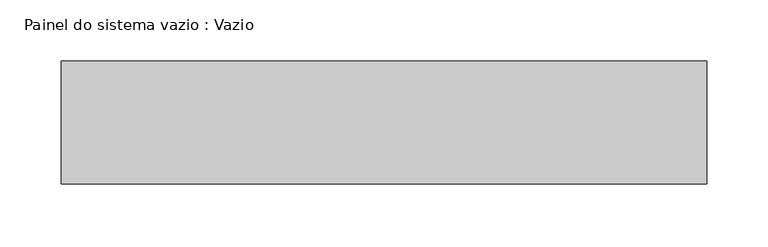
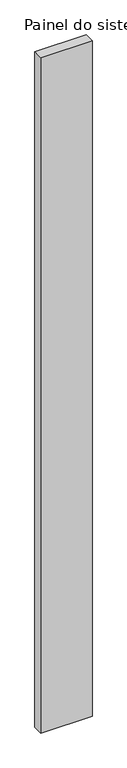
"""IFC4 building model written with IfcOpenShell, lengths in millimetres: plate geometry, Painel do sistema vazio : Vazio."""

from ifc_helpers import new_model, si_unit, origin, origin_with_axes, place, context, project, spatial, polyline, outline, extrude, source, transform, mapped, element, save


def painel_do_sistema_vazio_vazio_8b69d46a(model_context):
    return source(origin(), model_context, "Body", "SweptSolid", [
        extrude(outline(polyline([(262.5, -50.0), (-262.5, -50.0), (-262.5, 50.0), (262.5, 50.0), (262.5, -50.0)])), origin_with_axes(), (0.0, 0.0, 1.0), 7288.0957915),
    ])


if __name__ == "__main__":
    model = new_model("IFC4")
    model_context = context("Model", 3, world=origin())
    ifc_project = project(units=[si_unit("LENGTHUNIT", "METRE", prefix="MILLI")], contexts=[model_context])
    site = spatial("IfcSite", under=ifc_project)
    building = spatial("IfcBuilding", under=site)
    placement = place(None, origin())
    painel_do_sistema_vazio_vazio_shape = painel_do_sistema_vazio_vazio_8b69d46a(model_context)
    element("IfcPlate", 1, ObjectType="Painel do sistema vazio : Vazio", at=placement, inside=building, context=model_context, shape_type="MappedRepresentation", body=[
        mapped(painel_do_sistema_vazio_vazio_shape, transform((0.0, 0.0, 0.0), x_axis=(1.0, 0.0, 0.0), y_axis=(0.0, 1.0, 0.0), z_axis=(0.0, 0.0, 1.0))),
    ])
    save(model, "model.ifc")
